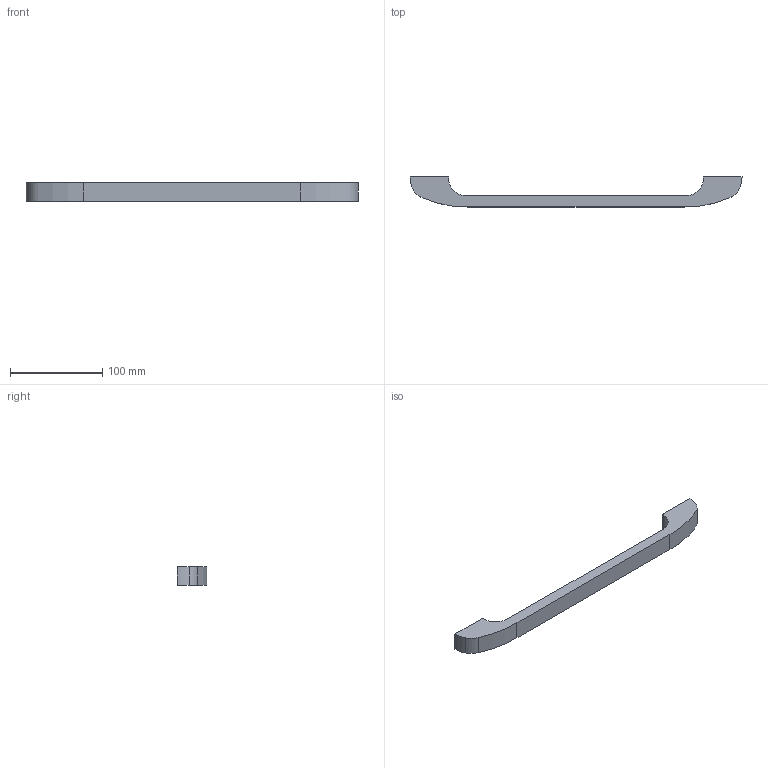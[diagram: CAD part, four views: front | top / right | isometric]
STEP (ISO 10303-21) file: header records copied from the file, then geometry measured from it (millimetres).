
FILE_DESCRIPTION( ( '' ), '1' );
FILE_NAME( 'C:/Documents and Settings/Nikhil/Desktop/Nik/Done/9145055.stp', '2013-10-23T08:50:54', ( '' ), ( '' ), ' ', ' ', ' ' );
FILE_SCHEMA( ( 'automotive_design' ) );
Length unit declared in the file: millimetre
Products named in the file (1): 1
Bounding box: 360 x 32.5 x 20 mm (x, y, z)
Volume: 109826.2 mm3; surface area: 26916.7 mm2
Topology: 1 solids, 1 shells, 22 faces, 54 edges, 36 vertices
Faces by surface type: cylinder 12, plane 10
Entity records: 1312 total; most frequent: DIRECTION 124, STYLED_ITEM 113, PRESENTATION_STYLE_ASSIGNMENT 113, CARTESIAN_POINT 113, COLOUR_RGB 113, ORIENTED_EDGE 108, EDGE_CURVE 54, CURVE_STYLE 54
